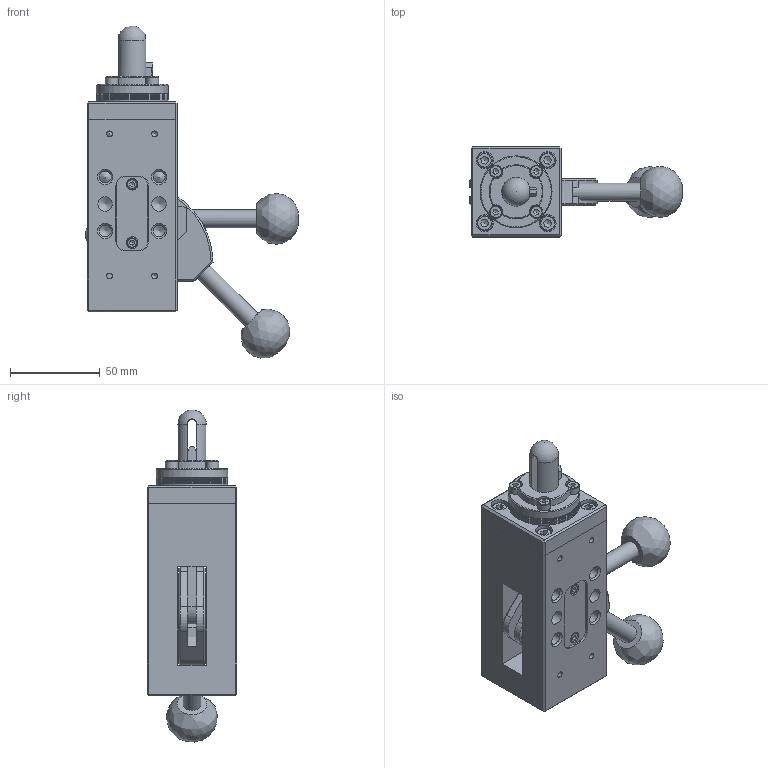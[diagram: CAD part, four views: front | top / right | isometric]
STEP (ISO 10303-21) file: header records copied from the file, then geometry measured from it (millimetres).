
FILE_DESCRIPTION(/* description */ (''),/* implementation_level */ '2;1');
FILE_NAME(/* name */ 'S:\Tom\INVENTOR FILES\AUTOMOTIVE\UNDERBODY CLAMPS\XPCB\SIMPLIFIED MODELS\STEP\XPCB-16-02-NS.stp',/* time_stamp */ '2021-06-08T10:07:44+01:00',/* author */ ('RWilson'),/* organization */ (''),/* preprocessor_version */ 'ST-DEVELOPER v18.1',/* originating_system */ 'Autodesk Inventor 2021',/* authorisation */ '');
FILE_SCHEMA (('AUTOMOTIVE_DESIGN { 1 0 10303 214 3 1 1 }'));
Length unit declared in the file: millimetre
Products named in the file (9): XPCB-16-02; XPCB - BODY; XPCB - HANDLE; XPCB - TOP PLATE; XPCB - 1MM SHIM; XPCB - 0.5MM SHIM; XPCB - 16MM CLAMPING RING & PIN; XPCB - 16MM HOOK; XPCB - BLANKING COVER
Assembly tree (13 placements, depth 2):
  XPCB-16-02
    XPCB - BODY
    XPCB - HANDLE  x2
    XPCB - TOP PLATE
    XPCB - 0.5MM SHIM  x2
    XPCB - 1MM SHIM  x3
    XPCB - 16MM CLAMPING RING & PIN
    XPCB - 16MM HOOK
    XPCB - BLANKING COVER  x2
Bounding box: 118.38 x 50 x 184.64 mm (x, y, z)
Volume: 336565 mm3; surface area: 101920.1 mm2
Topology: 13 solids, 23 shells, 539 faces, 1428 edges, 958 vertices
Faces by surface type: plane 258, cylinder 156, cone 106, torus 16, bspline 2, sphere 1
Full cylindrical faces by diameter (mm): 2.459 x4, 3 x8, 3.2 x4, 3.242 x8, 4.917 x3, 5.5 x4, 6 x3, 6.5 x4, 6.6 x3, 6.647 x12, 7 x4, 8 x6, 8.376 x2, 8.5 x4, 9.5 x4, 10 x5, 40 x6
Entity records: 13653 total; most frequent: CARTESIAN_POINT 2671, DIRECTION 2322, ORIENTED_EDGE 2182, EDGE_CURVE 1091, AXIS2_PLACEMENT_3D 890, VERTEX_POINT 764, LINE 542, VECTOR 542
